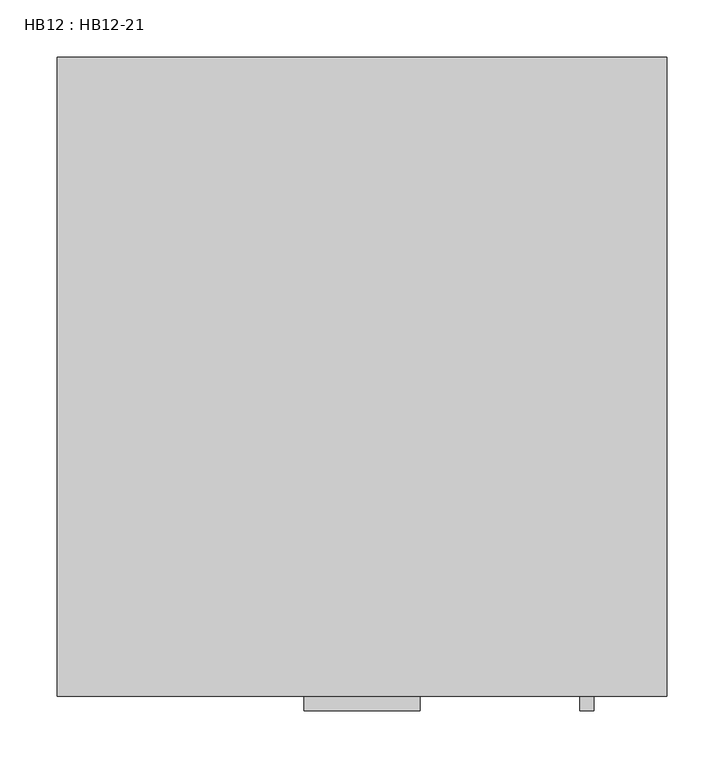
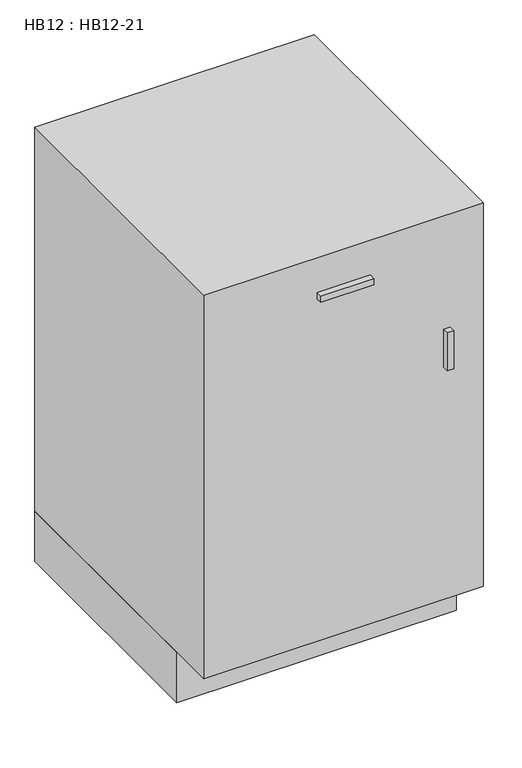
"""IFC4 building model written with IfcOpenShell, lengths in millimetres: furniture geometry, HB12 : HB12-21."""

from ifc_helpers import new_model, si_unit, frame, origin, origin_with_axes, place, context, project, spatial, polyline, outline, extrude, source, transform, mapped, element, save


def hb12_hb12_21_dfdbf895(model_context):
    return source(origin(), model_context, "Body", "SweptSolid", [
        extrude(outline(polyline([(285.4377049, 0.0), (285.4377049, -558.8), (-247.9622951, -558.8), (-247.9622951, 0.0), (285.4377049, 0.0)])), frame((0.0, 0.0, 101.6), z_axis=(0.0, 0.0, 1.0), x_axis=(1.0, 0.0, 0.0)), (0.0, 0.0, 1.0), 774.7),
        extrude(outline(polyline([(69.5377049, -571.5), (-32.0622951, -571.5), (-32.0622951, -558.8), (69.5377049, -558.8), (69.5377049, -571.5)])), frame((0.0, 0.0, 793.85), z_axis=(0.0, 0.0, 1.0), x_axis=(1.0, 0.0, 0.0)), (0.0, 0.0, 1.0), 12.6),
        extrude(outline(polyline([(221.8877049, -571.5), (209.2877049, -571.5), (209.2877049, -558.8), (221.8877049, -558.8), (221.8877049, -571.5)])), frame((0.0, 0.0, 571.5), z_axis=(0.0, 0.0, 1.0), x_axis=(1.0, 0.0, 0.0)), (0.0, 0.0, 1.0), 76.2),
        extrude(outline(polyline([(285.4377049, 0.0), (285.4377049, -469.9), (-247.9622951, -469.9), (-247.9622951, 0.0), (285.4377049, 0.0)])), origin_with_axes(), (0.0, 0.0, 1.0), 101.6),
    ])


if __name__ == "__main__":
    model = new_model("IFC4")
    model_context = context("Model", 3, world=origin())
    ifc_project = project(units=[si_unit("LENGTHUNIT", "METRE", prefix="MILLI")], contexts=[model_context])
    site = spatial("IfcSite", under=ifc_project)
    building = spatial("IfcBuilding", under=site)
    placement = place(None, origin())
    hb12_hb12_21_shape = hb12_hb12_21_dfdbf895(model_context)
    element("IfcFurniture", 1, ObjectType="HB12 : HB12-21", at=placement, inside=building, context=model_context, shape_type="MappedRepresentation", body=[
        mapped(hb12_hb12_21_shape, transform((0.0, 0.0, 0.0), x_axis=(1.0, 0.0, 0.0), y_axis=(0.0, 1.0, 0.0), z_axis=(0.0, 0.0, 1.0))),
    ])
    save(model, "model.ifc")
